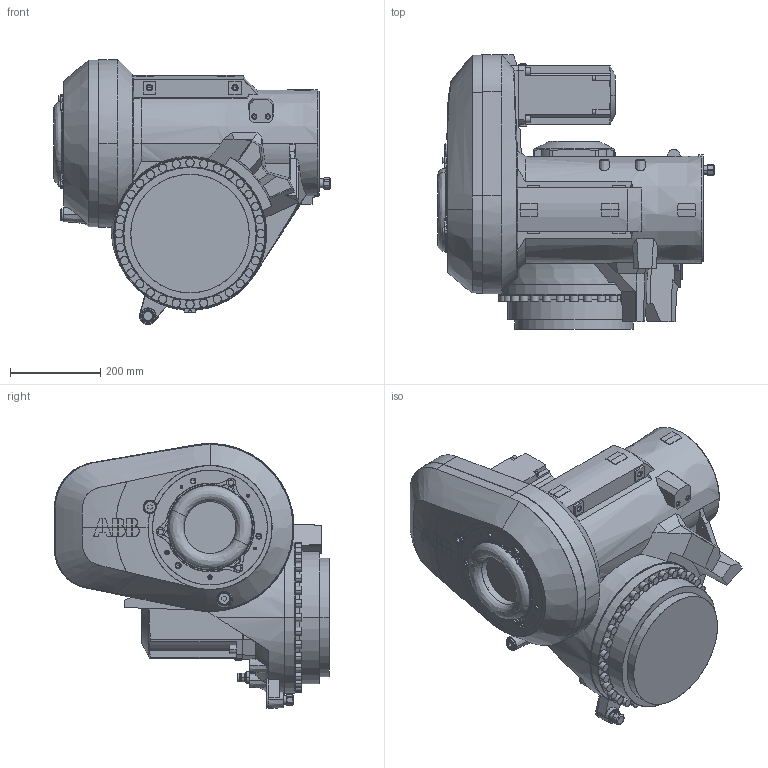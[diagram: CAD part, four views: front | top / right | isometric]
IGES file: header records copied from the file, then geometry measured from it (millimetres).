
Start section: SolidWorks IGES file using analytic representation for surfaces
Global section: file name: C:\DATA\SAP_DOC\LW\IRB 6730S\IRB6730S_210kg-350_OC_01_SW_J\export\IRB6730S_210kg-350_OC_01_IGES_J\IRB6730S_All_OC_00_LINK03_CAD.igs; native system: SolidWorks 2024; preprocessor: SolidWorks 2024; author: SEJOVAS3; date: 260526.123410; units: millimetre
Bounding box: 615 x 610 x 588.32 mm (x, y, z)
Surface area: 1850810.2 mm2 (no closed solid volume)
Topology: 0 solids, 0 shells, 1361 faces, 19117 edges, 19067 vertices
Faces by surface type: bspline 757, revolution 604
